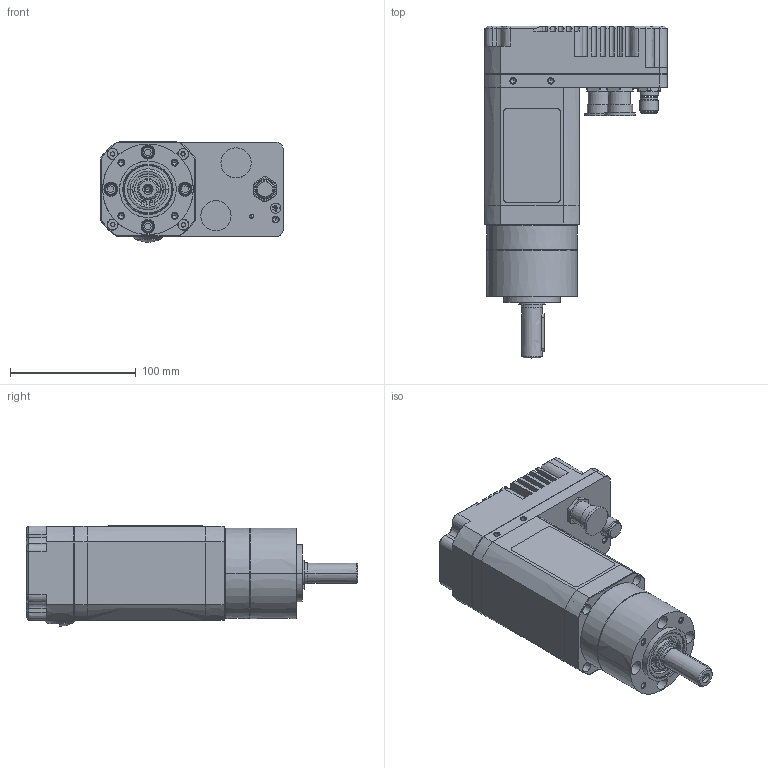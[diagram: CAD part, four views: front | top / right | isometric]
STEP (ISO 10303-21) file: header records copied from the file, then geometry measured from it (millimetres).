
FILE_DESCRIPTION((''),'2;1');
FILE_NAME('8036D_1STAGE','2018-08-29T',('ALECMA1'),('CROUZET-AUTOMATISMES'),'CREO PARAMETRIC BY PTC INC, 2017170','CREO PARAMETRIC BY PTC INC, 2017170','');
FILE_SCHEMA(('AP203_CONFIGURATION_CONTROLLED_3D_DESIGN_OF_MECHANICAL_PARTS_AND_ASSEMBLIES_MIM_LF { 1 0 10303 403 2 1 2 }'));
Products named in the file (1): 8036D_1STAGE
Bounding box: 145 x 263.8 x 79.7 mm (x, y, z)
Surface area: 134685.7 mm2 (no closed solid volume)
Topology: 0 solids, 0 shells, 670 faces, 3460 edges, 3419 vertices
Faces by surface type: bspline 646, torus 20, sphere 4
Entity records: 65883 total; most frequent: CARTESIAN_POINT 28740, DIRECTION 5441, TRIMMED_CURVE 4639, VECTOR 3910, LINE 3910, DEFINITIONAL_REPRESENTATION 3399, PCURVE 3399, COMPOSITE_CURVE_SEGMENT 3399
